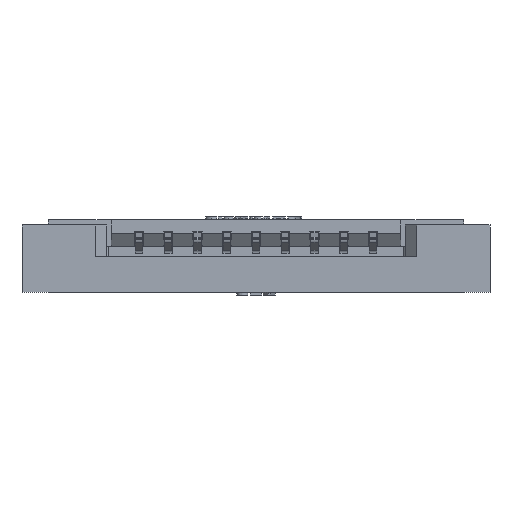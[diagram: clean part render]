
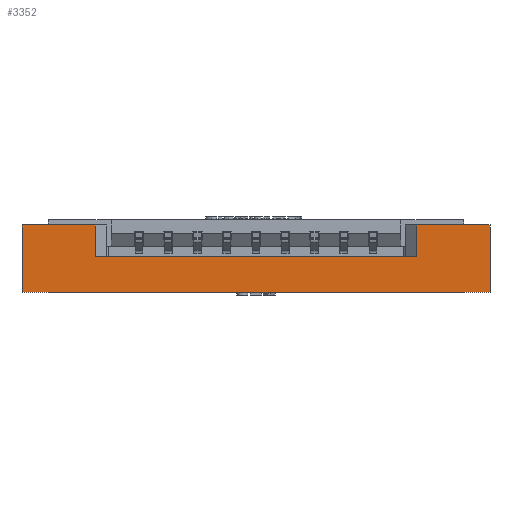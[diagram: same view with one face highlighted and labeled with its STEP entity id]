
A CAD part, front view. The second image highlights one B-rep face of the part: STEP entity #3352.
In plain terms, the highlighted planar face has unit normal (0, -1, 0).
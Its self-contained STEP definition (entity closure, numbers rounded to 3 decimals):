
#183 = LINE ( 'NONE', #31860, #38495 ) ;
#305 = VERTEX_POINT ( 'NONE', #6577 ) ;
#1041 = VERTEX_POINT ( 'NONE', #34431 ) ;
#1496 = EDGE_CURVE ( 'NONE', #3706, #20836, #183, .T. ) ;
#2103 = ORIENTED_EDGE ( 'NONE', *, *, #33481, .T. ) ;
#3352 = ADVANCED_FACE ( 'NONE', ( #19841 ), #6819, .T. ) ;
#3706 = VERTEX_POINT ( 'NONE', #27477 ) ;
#5662 = VECTOR ( 'NONE', #25155, 1000. ) ;
#6054 = CARTESIAN_POINT ( 'NONE',  ( 7.5, -4.67, -2.48 ) ) ;
#6577 = CARTESIAN_POINT ( 'NONE',  ( 5., -4.67, -0.18 ) ) ;
#6819 = PLANE ( 'NONE',  #23864 ) ;
#6974 = CARTESIAN_POINT ( 'NONE',  ( 5.6, -4.67, -1.25 ) ) ;
#7215 = CARTESIAN_POINT ( 'NONE',  ( -9.646, -4.67, -2.48 ) ) ;
#7964 = VERTEX_POINT ( 'NONE', #40046 ) ;
#9593 = ORIENTED_EDGE ( 'NONE', *, *, #38756, .T. ) ;
#9720 = DIRECTION ( 'NONE',  ( 0., 0., 1. ) ) ;
#9977 = LINE ( 'NONE', #41436, #12326 ) ;
#10162 = VERTEX_POINT ( 'NONE', #6054 ) ;
#10275 = VERTEX_POINT ( 'NONE', #10829 ) ;
#10675 = ORIENTED_EDGE ( 'NONE', *, *, #19852, .F. ) ;
#10829 = CARTESIAN_POINT ( 'NONE',  ( -8.5, -4.67, -0.18 ) ) ;
#11234 = LINE ( 'NONE', #25392, #5662 ) ;
#11341 = DIRECTION ( 'NONE',  ( 0., 0., 1. ) ) ;
#11507 = CARTESIAN_POINT ( 'NONE',  ( -8.5, -4.67, -5.18 ) ) ;
#12161 = VECTOR ( 'NONE', #17906, 1000. ) ;
#12312 = CARTESIAN_POINT ( 'NONE',  ( -6., -4.67, -0.18 ) ) ;
#12326 = VECTOR ( 'NONE', #30938, 1000. ) ;
#13439 = DIRECTION ( 'NONE',  ( 0., 0., -1. ) ) ;
#13667 = ORIENTED_EDGE ( 'NONE', *, *, #15034, .F. ) ;
#15034 = EDGE_CURVE ( 'NONE', #10275, #20836, #9977, .T. ) ;
#15292 = ORIENTED_EDGE ( 'NONE', *, *, #29638, .F. ) ;
#16039 = CARTESIAN_POINT ( 'NONE',  ( 5., -4.67, -1.25 ) ) ;
#17322 = VECTOR ( 'NONE', #43591, 1000. ) ;
#17906 = DIRECTION ( 'NONE',  ( 1., 0., 0. ) ) ;
#18144 = LINE ( 'NONE', #7215, #28441 ) ;
#19841 = FACE_OUTER_BOUND ( 'NONE', #44719, .T. ) ;
#19852 = EDGE_CURVE ( 'NONE', #7964, #10275, #39996, .T. ) ;
#20836 = VERTEX_POINT ( 'NONE', #12312 ) ;
#21189 = ORIENTED_EDGE ( 'NONE', *, *, #37634, .F. ) ;
#21271 = VERTEX_POINT ( 'NONE', #42435 ) ;
#23864 = AXIS2_PLACEMENT_3D ( 'NONE', #27131, #44203, #13439 ) ;
#25155 = DIRECTION ( 'NONE',  ( 1., 0., 0. ) ) ;
#25392 = CARTESIAN_POINT ( 'NONE',  ( 5., -4.67, -0.18 ) ) ;
#26387 = LINE ( 'NONE', #27274, #31634 ) ;
#27131 = CARTESIAN_POINT ( 'NONE',  ( 6., -4.67, -5.18 ) ) ;
#27274 = CARTESIAN_POINT ( 'NONE',  ( 7.5, -4.67, -5.18 ) ) ;
#27477 = CARTESIAN_POINT ( 'NONE',  ( -6., -4.67, -1.25 ) ) ;
#28441 = VECTOR ( 'NONE', #32036, 1000. ) ;
#29553 = EDGE_CURVE ( 'NONE', #305, #1041, #11234, .T. ) ;
#29638 = EDGE_CURVE ( 'NONE', #21271, #305, #33104, .T. ) ;
#30938 = DIRECTION ( 'NONE',  ( 1., 0., 0. ) ) ;
#31634 = VECTOR ( 'NONE', #9720, 1000. ) ;
#31860 = CARTESIAN_POINT ( 'NONE',  ( -6., -4.67, -1.25 ) ) ;
#32036 = DIRECTION ( 'NONE',  ( 1., 0., 0. ) ) ;
#33104 = LINE ( 'NONE', #16039, #17322 ) ;
#33481 = EDGE_CURVE ( 'NONE', #10162, #1041, #26387, .T. ) ;
#34431 = CARTESIAN_POINT ( 'NONE',  ( 7.5, -4.67, -0.18 ) ) ;
#34781 = LINE ( 'NONE', #6974, #12161 ) ;
#37634 = EDGE_CURVE ( 'NONE', #3706, #21271, #34781, .T. ) ;
#38495 = VECTOR ( 'NONE', #11341, 1000. ) ;
#38756 = EDGE_CURVE ( 'NONE', #7964, #10162, #18144, .T. ) ;
#39125 = ORIENTED_EDGE ( 'NONE', *, *, #29553, .F. ) ;
#39996 = LINE ( 'NONE', #11507, #43587 ) ;
#40046 = CARTESIAN_POINT ( 'NONE',  ( -8.5, -4.67, -2.48 ) ) ;
#41226 = ORIENTED_EDGE ( 'NONE', *, *, #1496, .T. ) ;
#41436 = CARTESIAN_POINT ( 'NONE',  ( 6., -4.67, -0.18 ) ) ;
#42435 = CARTESIAN_POINT ( 'NONE',  ( 5., -4.67, -1.25 ) ) ;
#43386 = DIRECTION ( 'NONE',  ( 0., 0., 1. ) ) ;
#43587 = VECTOR ( 'NONE', #43386, 1000. ) ;
#43591 = DIRECTION ( 'NONE',  ( 0., 0., 1. ) ) ;
#44203 = DIRECTION ( 'NONE',  ( 0., -1., 0. ) ) ;
#44719 = EDGE_LOOP ( 'NONE', ( #21189, #41226, #13667, #10675, #9593, #2103, #39125, #15292 ) ) ;
